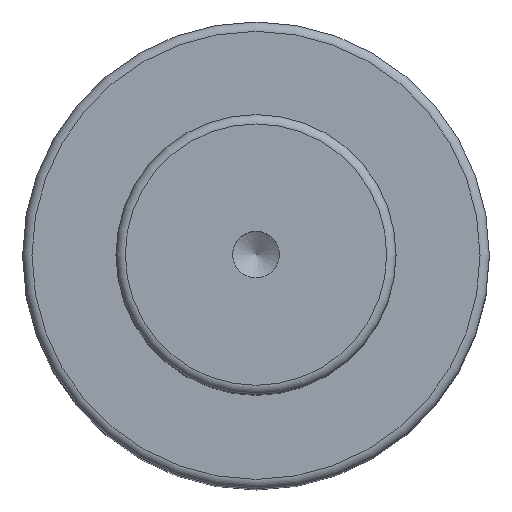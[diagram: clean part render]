
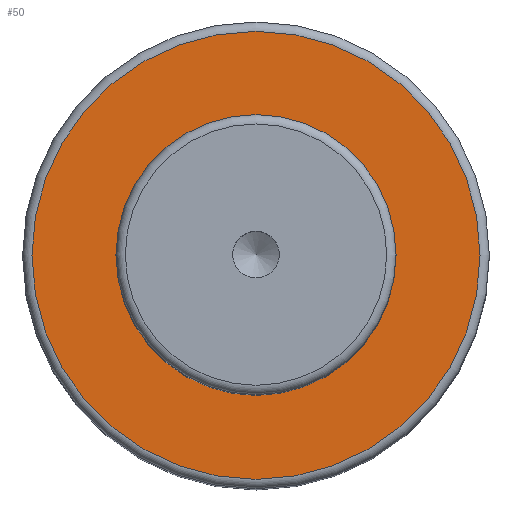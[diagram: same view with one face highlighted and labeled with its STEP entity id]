
A CAD part, top view. The second image highlights one B-rep face of the part: STEP entity #50.
In plain terms, the highlighted planar face has unit normal (0, 0, 1).
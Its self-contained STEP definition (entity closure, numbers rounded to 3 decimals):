
#40=PLANE('',#179);
#50=ADVANCED_FACE('',(#72,#73),#40,.F.);
#72=FACE_BOUND('',#96,.T.);
#73=FACE_BOUND('',#97,.T.);
#96=EDGE_LOOP('',(#118));
#97=EDGE_LOOP('',(#119));
#118=ORIENTED_EDGE('',*,*,#149,.F.);
#119=ORIENTED_EDGE('',*,*,#148,.T.);
#135=VERTEX_POINT('',#256);
#136=VERTEX_POINT('',#259);
#148=EDGE_CURVE('',#135,#135,#159,.T.);
#149=EDGE_CURVE('',#136,#136,#160,.T.);
#159=CIRCLE('',#176,15.);
#160=CIRCLE('',#178,24.);
#176=AXIS2_PLACEMENT_3D('',#255,#213,#214);
#178=AXIS2_PLACEMENT_3D('',#258,#217,#218);
#179=AXIS2_PLACEMENT_3D('',#260,#219,#220);
#213=DIRECTION('',(0.,0.,-1.));
#214=DIRECTION('',(-1.,0.,0.));
#217=DIRECTION('',(0.,0.,-1.));
#218=DIRECTION('',(-1.,0.,0.));
#219=DIRECTION('',(0.,0.,-1.));
#220=DIRECTION('',(-1.,0.,0.));
#255=CARTESIAN_POINT('',(0.,0.,79.));
#256=CARTESIAN_POINT('',(-15.,0.,79.));
#258=CARTESIAN_POINT('',(0.,0.,79.));
#259=CARTESIAN_POINT('',(-24.,0.,79.));
#260=CARTESIAN_POINT('',(15.,0.,79.));
